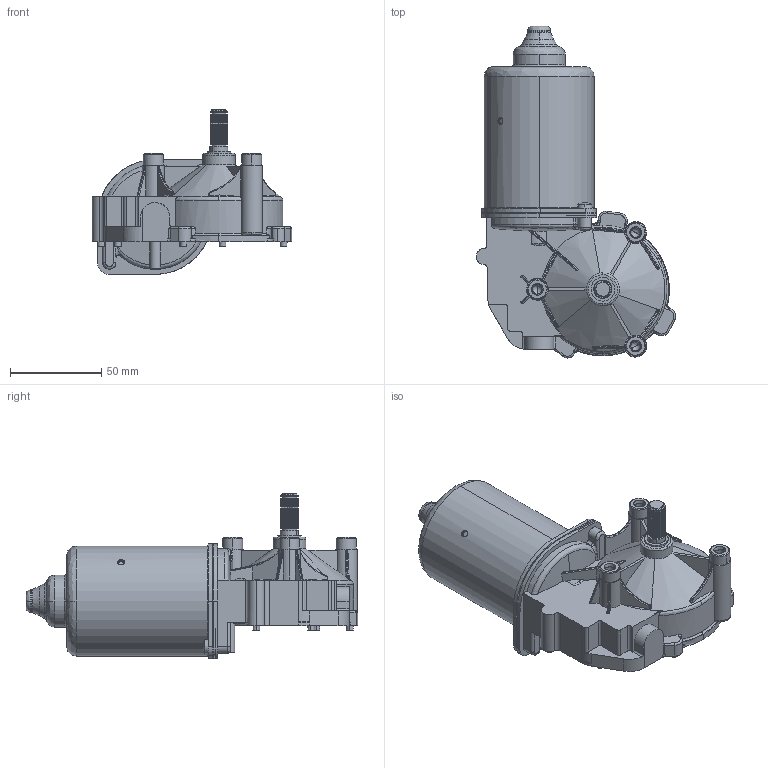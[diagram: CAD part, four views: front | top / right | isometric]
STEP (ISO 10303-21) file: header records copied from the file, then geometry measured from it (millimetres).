
FILE_DESCRIPTION (( 'STEP AP203' ), '1' );
FILE_NAME ('405032.step', '2016-02-09T09:01:30', ( '' ), ( '' ), 'SwSTEP 2.0', 'SolidWorks 2008', '' );
FILE_SCHEMA (( 'CONFIG_CONTROL_DESIGN' ));
Length unit declared in the file: millimetre
Products named in the file (3): Shaft-W321-KGK; 405032; Motor-DCK35-Left-KGK
Assembly tree (2 placements, depth 2):
  405032
    Motor-DCK35-Left-KGK
    Shaft-W321-KGK
Bounding box: 109.5 x 182.25 x 90.5 mm (x, y, z)
Volume: 236874.8 mm3; surface area: 78662.6 mm2
Topology: 2 solids, 7 shells, 878 faces, 2495 edges, 1663 vertices
Faces by surface type: plane 316, cylinder 278, bspline 197, cone 87
Entity records: 46595 total; most frequent: CARTESIAN_POINT 26290, ORIENTED_EDGE 4944, DIRECTION 2967, EDGE_CURVE 2472, VERTEX_POINT 1663, B_SPLINE_CURVE_WITH_KNOTS 1221, AXIS2_PLACEMENT_3D 1050, EDGE_LOOP 941
